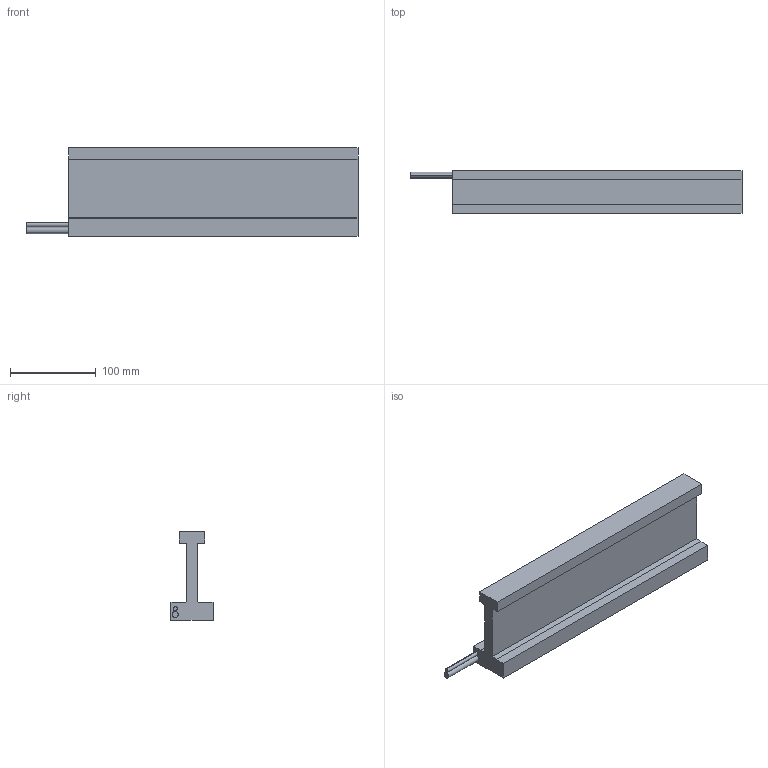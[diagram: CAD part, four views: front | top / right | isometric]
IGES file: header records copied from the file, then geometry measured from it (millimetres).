
Start section: SolidWorks IGES file using analytic representation for surfaces
Global section: file name: C:\Users\admin\Desktop\LM无铁芯U型电机 - 副本\FU700模型图\FU700-337.IGS; native system: SolidWorks 2016; preprocessor: SolidWorks 2016; author: admin; date: 201103.134610; units: millimetre
Bounding box: 387 x 49 x 103.5 mm (x, y, z)
Surface area: 123407 mm2 (no closed solid volume)
Topology: 0 solids, 0 shells, 82 faces, 948 edges, 918 vertices
Faces by surface type: revolution 64, bspline 18
